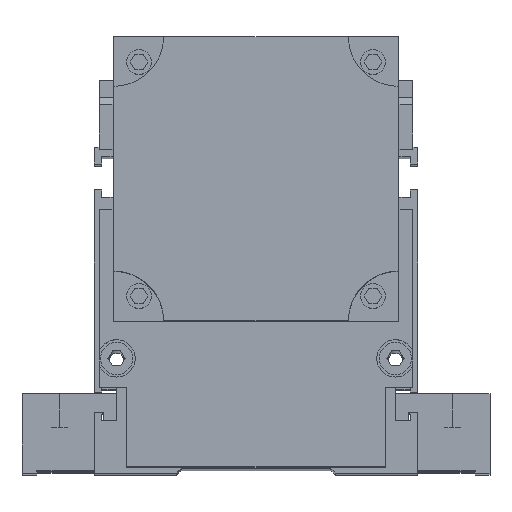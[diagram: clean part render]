
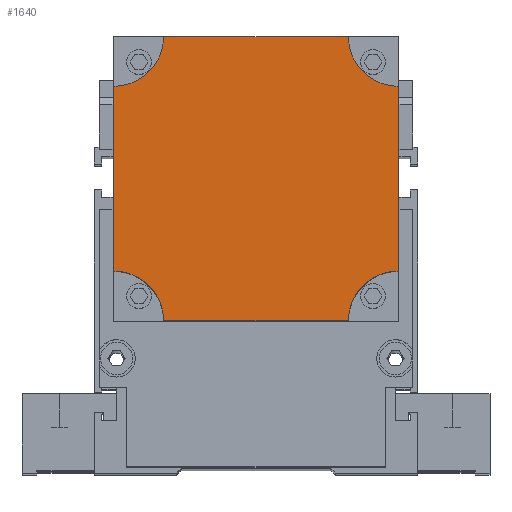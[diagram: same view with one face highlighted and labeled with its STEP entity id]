
A CAD part, top view. The second image highlights one B-rep face of the part: STEP entity #1640.
In plain terms, the highlighted planar face has unit normal (0, 0, 1).
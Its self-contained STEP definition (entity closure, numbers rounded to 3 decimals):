
#1582 = ORIENTED_EDGE ( 'NONE', *, *, #3005, .T. ) ;
#1595 = EDGE_LOOP ( 'NONE', ( #3000, #2996, #3014, #3035, #3029, #1582, #3012, #3350 ) ) ;
#1622 = EDGE_CURVE ( 'NONE', #1646, #1652, #7464, .T. ) ;
#1630 = VERTEX_POINT ( 'NONE', #7448 ) ;
#1640 = ADVANCED_FACE ( 'NONE', ( #7494 ), #7492, .T. ) ;
#1644 = VERTEX_POINT ( 'NONE', #7483 ) ;
#1646 = VERTEX_POINT ( 'NONE', #7478 ) ;
#1652 = VERTEX_POINT ( 'NONE', #7479 ) ;
#2986 = VERTEX_POINT ( 'NONE', #9752 ) ;
#2994 = EDGE_CURVE ( 'NONE', #1630, #3020, #9805, .T. ) ;
#2995 = EDGE_CURVE ( 'NONE', #1646, #2986, #9796, .T. ) ;
#2996 = ORIENTED_EDGE ( 'NONE', *, *, #2995, .T. ) ;
#3000 = ORIENTED_EDGE ( 'NONE', *, *, #1622, .F. ) ;
#3001 = EDGE_CURVE ( 'NONE', #1630, #2986, #9806, .T. ) ;
#3002 = VERTEX_POINT ( 'NONE', #9788 ) ;
#3003 = EDGE_CURVE ( 'NONE', #3002, #3020, #9783, .T. ) ;
#3005 = EDGE_CURVE ( 'NONE', #3002, #3024, #9789, .T. ) ;
#3012 = ORIENTED_EDGE ( 'NONE', *, *, #3074, .F. ) ;
#3014 = ORIENTED_EDGE ( 'NONE', *, *, #3001, .F. ) ;
#3020 = VERTEX_POINT ( 'NONE', #9807 ) ;
#3024 = VERTEX_POINT ( 'NONE', #9874 ) ;
#3029 = ORIENTED_EDGE ( 'NONE', *, *, #3003, .F. ) ;
#3035 = ORIENTED_EDGE ( 'NONE', *, *, #2994, .T. ) ;
#3048 = EDGE_CURVE ( 'NONE', #1644, #1652, #9850, .T. ) ;
#3074 = EDGE_CURVE ( 'NONE', #1644, #3024, #9927, .T. ) ;
#3350 = ORIENTED_EDGE ( 'NONE', *, *, #3048, .T. ) ;
#7397 = AXIS2_PLACEMENT_3D ( 'NONE', #7460, #7450, #7449 ) ;
#7448 = CARTESIAN_POINT ( 'NONE',  ( 28.55, 7.6, 415.5 ) ) ;
#7449 = DIRECTION ( 'NONE',  ( -1., 0., 0. ) ) ;
#7450 = DIRECTION ( 'NONE',  ( 0., 0., 1. ) ) ;
#7460 = CARTESIAN_POINT ( 'NONE',  ( -28.55, -2.4, 415.5 ) ) ;
#7464 = CIRCLE ( 'NONE', #7397, 10. ) ;
#7478 = CARTESIAN_POINT ( 'NONE',  ( -18.55, -2.4, 415.5 ) ) ;
#7479 = CARTESIAN_POINT ( 'NONE',  ( -28.55, 7.6, 415.5 ) ) ;
#7483 = CARTESIAN_POINT ( 'NONE',  ( -28.55, 44.7, 415.5 ) ) ;
#7484 = DIRECTION ( 'NONE',  ( 1., 0., 0. ) ) ;
#7485 = DIRECTION ( 'NONE',  ( 0., 0., 1. ) ) ;
#7492 = PLANE ( 'NONE',  #7493 ) ;
#7493 = AXIS2_PLACEMENT_3D ( 'NONE', #7495, #7485, #7484 ) ;
#7494 = FACE_OUTER_BOUND ( 'NONE', #1595, .T. ) ;
#7495 = CARTESIAN_POINT ( 'NONE',  ( -28.55, -2.4, 415.5 ) ) ;
#8457 = VECTOR ( 'NONE', #8703, 1000. ) ;
#8703 = DIRECTION ( 'NONE',  ( -1., 0., 0. ) ) ;
#9752 = CARTESIAN_POINT ( 'NONE',  ( 18.55, -2.4, 415.5 ) ) ;
#9779 = DIRECTION ( 'NONE',  ( -1., 0., 0. ) ) ;
#9780 = DIRECTION ( 'NONE',  ( 0., 0., 1. ) ) ;
#9781 = AXIS2_PLACEMENT_3D ( 'NONE', #9787, #9780, #9779 ) ;
#9782 = CARTESIAN_POINT ( 'NONE',  ( -28.55, 54.7, 415.5 ) ) ;
#9783 = CIRCLE ( 'NONE', #9781, 10. ) ;
#9784 = DIRECTION ( 'NONE',  ( 1., 0., 0. ) ) ;
#9785 = DIRECTION ( 'NONE',  ( 0., 0., 1. ) ) ;
#9786 = CARTESIAN_POINT ( 'NONE',  ( 28.55, -2.4, 415.5 ) ) ;
#9787 = CARTESIAN_POINT ( 'NONE',  ( 28.55, 54.7, 415.5 ) ) ;
#9788 = CARTESIAN_POINT ( 'NONE',  ( 18.55, 54.7, 415.5 ) ) ;
#9789 = LINE ( 'NONE', #9782, #8457 ) ;
#9792 = DIRECTION ( 'NONE',  ( 1., 0., 0. ) ) ;
#9793 = VECTOR ( 'NONE', #9792, 1000. ) ;
#9795 = CARTESIAN_POINT ( 'NONE',  ( -28.55, -2.4, 415.5 ) ) ;
#9796 = LINE ( 'NONE', #9795, #9793 ) ;
#9799 = DIRECTION ( 'NONE',  ( 0., 1., 0. ) ) ;
#9800 = VECTOR ( 'NONE', #9799, 1000. ) ;
#9801 = AXIS2_PLACEMENT_3D ( 'NONE', #9786, #9785, #9784 ) ;
#9802 = CARTESIAN_POINT ( 'NONE',  ( 28.55, 54.7, 415.5 ) ) ;
#9805 = LINE ( 'NONE', #9802, #9800 ) ;
#9806 = CIRCLE ( 'NONE', #9801, 10. ) ;
#9807 = CARTESIAN_POINT ( 'NONE',  ( 28.55, 44.7, 415.5 ) ) ;
#9848 = CARTESIAN_POINT ( 'NONE',  ( -28.55, 54.7, 415.5 ) ) ;
#9850 = LINE ( 'NONE', #9848, #9902 ) ;
#9874 = CARTESIAN_POINT ( 'NONE',  ( -18.55, 54.7, 415.5 ) ) ;
#9900 = DIRECTION ( 'NONE',  ( 0., -1., 0. ) ) ;
#9902 = VECTOR ( 'NONE', #9900, 1000. ) ;
#9913 = DIRECTION ( 'NONE',  ( 1., 0., 0. ) ) ;
#9914 = DIRECTION ( 'NONE',  ( 0., 0., 1. ) ) ;
#9915 = AXIS2_PLACEMENT_3D ( 'NONE', #9925, #9914, #9913 ) ;
#9925 = CARTESIAN_POINT ( 'NONE',  ( -28.55, 54.7, 415.5 ) ) ;
#9927 = CIRCLE ( 'NONE', #9915, 10. ) ;
